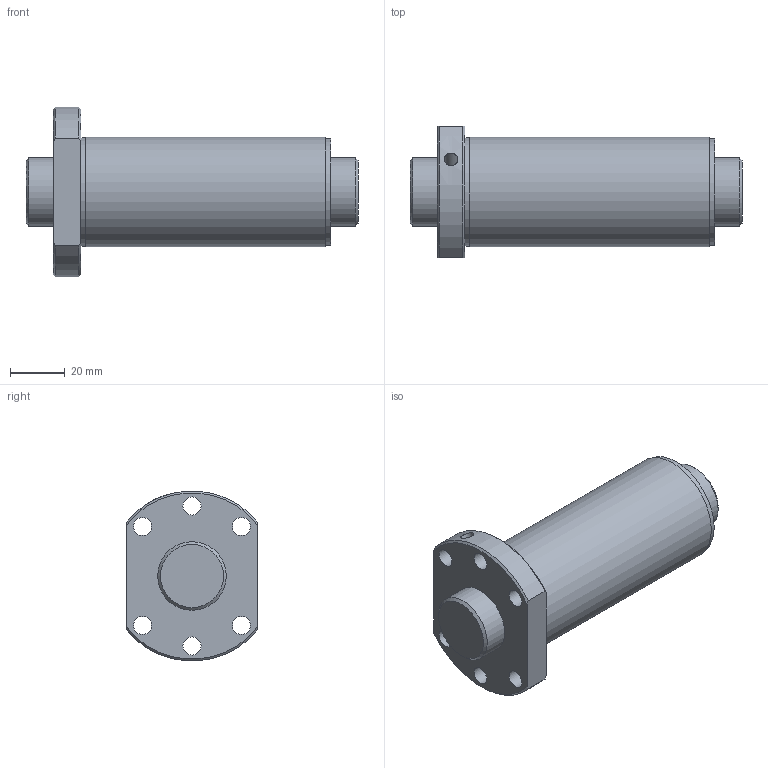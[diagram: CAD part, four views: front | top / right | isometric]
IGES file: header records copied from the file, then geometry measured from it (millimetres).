
Start section: Data from Parasolid IGES Translator 26.0.171, Copyright(c) 2006 Siemens PLM Software. All Rights Reserved.
Global section: file name: SDA2550V-2G0+121LC0(0G000).igs; native system: By Siemens PLM Incorporated; preprocessor: XPlus GENERIC/IGES 26.0.171; author: Noname; organization: Noname; date: 20240528.113100; units: millimetre
Bounding box: 121 x 48 x 61.8 mm (x, y, z)
Surface area: 36969.3 mm2 (no closed solid volume)
Topology: 0 solids, 0 shells, 31 faces, 142 edges, 121 vertices
Faces by surface type: revolution 22, extrusion 9
